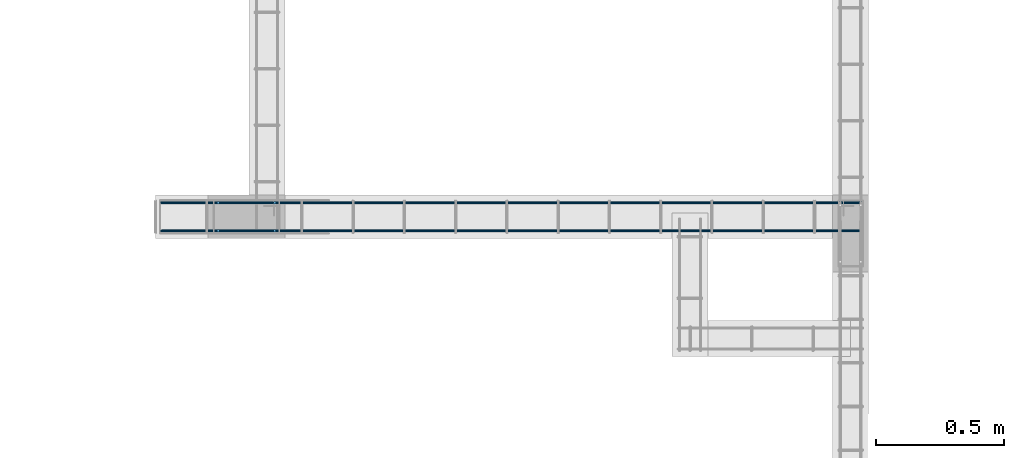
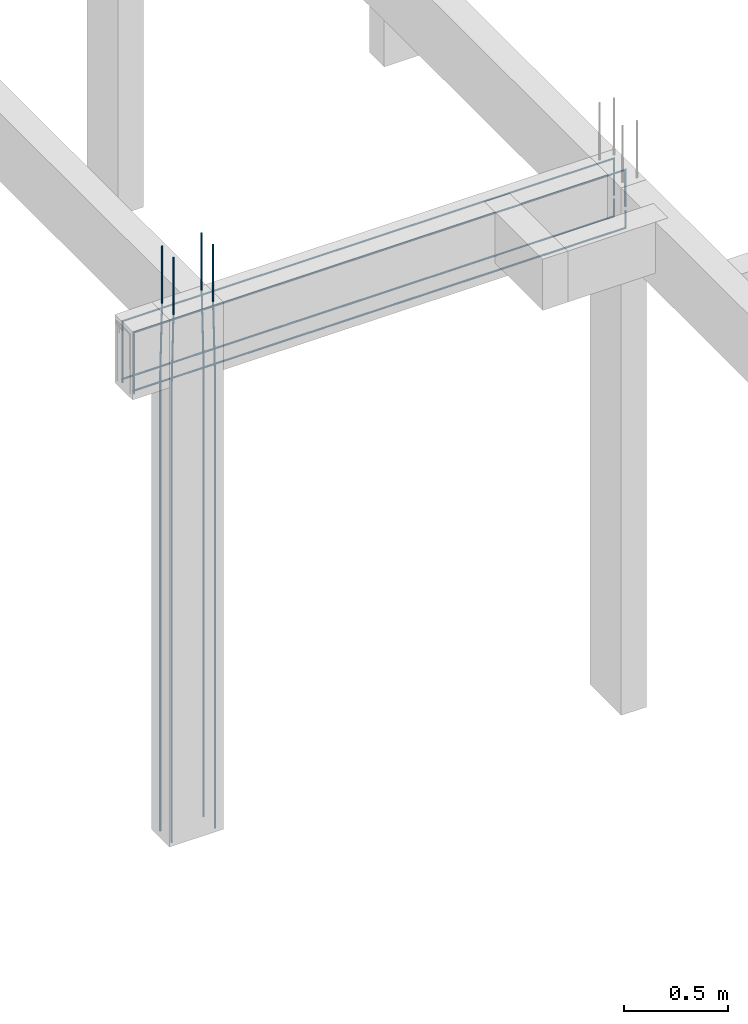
# One storey, part 64 of 236: 8 reinforcing bars.
"""IFC4 building model written with IfcOpenShell, lengths in centimetres."""

from ifc_helpers import new_model, entity, si_unit, derived_unit, frame, origin_with_axes, place, context, project, spatial, element, save


model = new_model("IFC4")

# Units and contexts
model_context = context("Model", 3, precision=1e-05, world=origin_with_axes(), identifier="Body")
ifc_project = project(units=[si_unit("LENGTHUNIT", "METRE", prefix="CENTI"), si_unit("VOLUMEUNIT", "CUBIC_METRE"), si_unit("AREAUNIT", "SQUARE_METRE"), si_unit("POWERUNIT", "WATT"), si_unit("LUMINOUSFLUXUNIT", "LUMEN"), si_unit("ELECTRICCURRENTUNIT", "AMPERE"), si_unit("PRESSUREUNIT", "PASCAL", prefix="KILO"), si_unit("MASSUNIT", "GRAM", prefix="KILO"), si_unit("PLANEANGLEUNIT", "RADIAN"), derived_unit("VOLUMETRICFLOWRATEUNIT", [(si_unit("LENGTHUNIT", "METRE"), 3), (si_unit("TIMEUNIT", "SECOND"), -1)])], contexts=[model_context])

# Site, building, storey
site_placement = place(None, frame((-4000.0, 0.0, 0.0), z_axis=(0.0, 0.0, 1.0), x_axis=(1.0, 0.0, 0.0)))
site = spatial("IfcSite", under=ifc_project, at=site_placement, Name="PADRÃO")
building_placement = place(site_placement, frame((0.0, 0.0, -14.0)))
building = spatial("IfcBuilding", under=site, at=building_placement, Name="CRECHE PRÉ-ESCOLA TIPO 2")
placement_1 = place(building_placement, origin_with_axes())
placement_2 = place(placement_1, frame((0.0, 0.0, 30.0), z_axis=(0.0, 0.0, 1.0), x_axis=(1.0, 0.0, 0.0)))
storey_placement = place(placement_2, frame((0.0, 0.0, 310.0), z_axis=(0.0, 0.0, 1.0), x_axis=(1.0, 0.0, 0.0)))
storey = spatial("IfcBuildingStorey", under=building, at=storey_placement, Name="TERREO", CompositionType="ELEMENT", Elevation=326.0)

# Reinforcing bars
for number, where, z_axis, x_axis, name in (
    (1, (279.5, 2689.01, 33.3573001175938), (0.0, 0.0, 1.0), (1.0, 0.0, 0.0), "P65 - Longitudinal"),
    (2, (279.5, 2678.01, 33.3573001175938), (0.0, 0.0, 1.0), (1.0, 0.0, 0.0), "P65 - Longitudinal"),
):
    element("IfcReinforcingBar", number, at=place(storey_placement, frame(where, z_axis=z_axis, x_axis=x_axis)), inside=storey, Name=name, BarLength=0.0, CrossSectionArea=7.853981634e-05, NominalDiameter=1.0, PredefinedType="MAIN", context=model_context, shape_type="AdvancedSweptSolid", body=[
        entity("IfcSweptDiskSolid", entity("IfcCompositeCurve", [entity("IfcCompositeCurveSegment", "CONTINUOUS", True, entity("IfcPolyline", [entity("IfcCartesianPoint", [0.5, 0.0, -343.357300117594]), entity("IfcCartesianPoint", [0.5, 0.0, -73.3573001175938])])), entity("IfcCompositeCurveSegment", "CONTINUOUS", True, entity("IfcPolyline", [entity("IfcCartesianPoint", [0.5, 0.0, -73.3573001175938]), entity("IfcCartesianPoint", [-0.5, 0.0, -33.3573001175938])])), entity("IfcCompositeCurveSegment", "CONTINUOUS", True, entity("IfcPolyline", [entity("IfcCartesianPoint", [-0.5, 0.0, -33.3573001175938]), entity("IfcCartesianPoint", [-0.5, 0.0, 0.0])]))], False), 0.5),
    ])
for number, where, z_axis, x_axis, name in (
    (3, (256.5, 2678.01, 33.3573001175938), (0.0, 0.0, 1.0), (1.0, 0.0, 0.0), "P65 - Longitudinal"),
    (4, (256.5, 2689.01, 33.3573001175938), (0.0, 0.0, 1.0), (1.0, 0.0, 0.0), "P65 - Longitudinal"),
):
    element("IfcReinforcingBar", number, at=place(storey_placement, frame(where, z_axis=z_axis, x_axis=x_axis)), inside=storey, Name=name, BarLength=0.0, CrossSectionArea=7.853981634e-05, NominalDiameter=1.0, PredefinedType="MAIN", context=model_context, shape_type="AdvancedSweptSolid", body=[
        entity("IfcSweptDiskSolid", entity("IfcCompositeCurve", [entity("IfcCompositeCurveSegment", "CONTINUOUS", True, entity("IfcPolyline", [entity("IfcCartesianPoint", [-0.5, 0.0, -343.357300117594]), entity("IfcCartesianPoint", [-0.5, 0.0, -73.3573001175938])])), entity("IfcCompositeCurveSegment", "CONTINUOUS", True, entity("IfcPolyline", [entity("IfcCartesianPoint", [-0.5, 0.0, -73.3573001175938]), entity("IfcCartesianPoint", [0.5, 0.0, -33.3573001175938])])), entity("IfcCompositeCurveSegment", "CONTINUOUS", True, entity("IfcPolyline", [entity("IfcCartesianPoint", [0.5, 0.0, -33.3573001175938]), entity("IfcCartesianPoint", [0.5, 0.0, 0.0])]))], False), 0.5),
    ])
for number, where, z_axis, x_axis, name in (
    (5, (371.5968751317, 2689.11, -27.1), (0.0, 0.0, 1.0), (1.0, 0.0, 0.0), "V223 - Longitudinal inferior"),
    (6, (371.5968751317, 2677.91, -27.1), (0.0, 0.0, 1.0), (1.0, 0.0, 0.0), "V223 - Longitudinal inferior"),
):
    element("IfcReinforcingBar", number, at=place(storey_placement, frame(where, z_axis=z_axis, x_axis=x_axis)), inside=storey, Name=name, BarLength=0.0, CrossSectionArea=5.0265482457e-05, NominalDiameter=0.8, PredefinedType="MAIN", context=model_context, shape_type="AdvancedSweptSolid", body=[
        entity("IfcSweptDiskSolid", entity("IfcCompositeCurve", [entity("IfcCompositeCurveSegment", "CONTINUOUS", True, entity("IfcPolyline", [entity("IfcCartesianPoint", [-137.0968751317, 0.0, -10.0]), entity("IfcCartesianPoint", [136.6931248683, 0.0, -10.0])])), entity("IfcCompositeCurveSegment", "CONTINUOUS", True, entity("IfcPolyline", [entity("IfcCartesianPoint", [136.6931248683, 0.0, -10.0]), entity("IfcCartesianPoint", [136.6931248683, 0.0, 0.0])]))], False), 0.4),
    ])
for number, where, z_axis, x_axis, name in (
    (7, (371.595, 2678.01, -2.49531217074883), (0.0, 0.0, 1.0), (1.0, 0.0, 0.0), "V223 - Longitudinal superior"),
    (8, (371.595, 2689.01, -2.49531217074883), (0.0, 0.0, 1.0), (1.0, 0.0, 0.0), "V223 - Longitudinal superior"),
):
    element("IfcReinforcingBar", number, at=place(storey_placement, frame(where, z_axis=z_axis, x_axis=x_axis)), inside=storey, Name=name, BarLength=0.0, CrossSectionArea=7.853981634e-05, NominalDiameter=1.0, PredefinedType="MAIN", context=model_context, shape_type="AdvancedSweptSolid", body=[
        entity("IfcSweptDiskSolid", entity("IfcCompositeCurve", [entity("IfcCompositeCurveSegment", "CONTINUOUS", True, entity("IfcPolyline", [entity("IfcCartesianPoint", [-136.595, 0.0, -36.5046878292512]), entity("IfcCartesianPoint", [-136.595, 0.0, -0.504687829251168])])), entity("IfcCompositeCurveSegment", "CONTINUOUS", True, entity("IfcPolyline", [entity("IfcCartesianPoint", [-136.595, 0.0, -0.504687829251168]), entity("IfcCartesianPoint", [136.595, 0.0, -0.504687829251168])])), entity("IfcCompositeCurveSegment", "CONTINUOUS", True, entity("IfcPolyline", [entity("IfcCartesianPoint", [136.595, 0.0, -0.504687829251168]), entity("IfcCartesianPoint", [136.595, 0.0, -22.165322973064])]))], False), 0.5),
    ])

save(model, "model.ifc")
